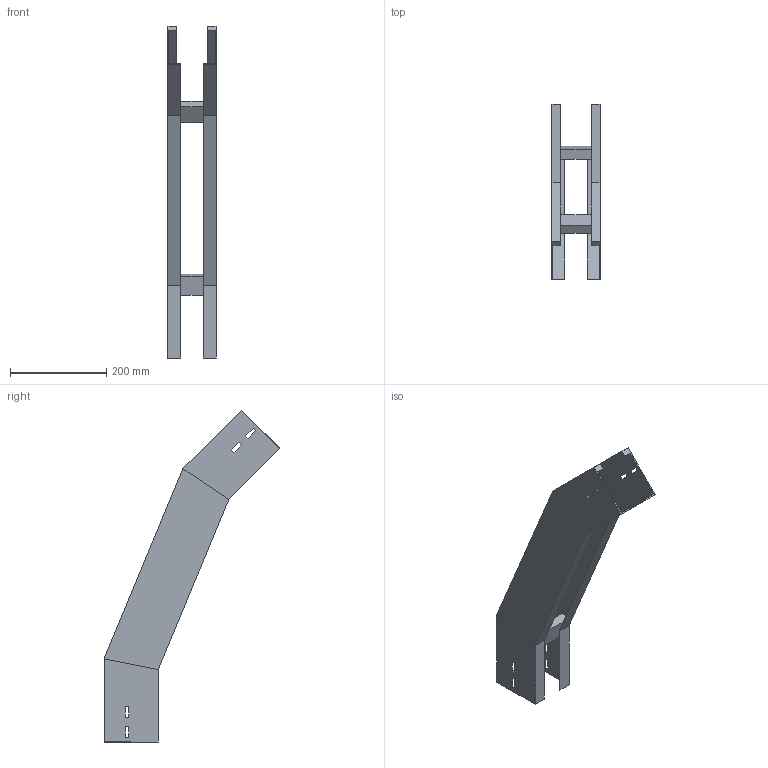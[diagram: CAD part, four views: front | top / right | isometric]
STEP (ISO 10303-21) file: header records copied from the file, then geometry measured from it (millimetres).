
FILE_DESCRIPTION (( 'STEP AP214' ), '1' );
FILE_NAME ('34B5J100.step', '2025-02-21T14:52:31', ( '' ), ( '' ), 'SwSTEP 2.0', 'SolidWorks 2023', '' );
FILE_SCHEMA (( 'AUTOMOTIVE_DESIGN' ));
Length unit declared in the file: millimetre
Products named in the file (3): LONGH.DISCESA_45°_H112.5_R500; TRAVERSINO_100; 34B5J100
Assembly tree (5 placements, depth 2):
  34B5J100
    LONGH.DISCESA_45°_H112.5_R500  x2
    TRAVERSINO_100  x3
Bounding box: 100 x 365.13 x 689.46 mm (x, y, z)
Volume: 921496.3 mm3; surface area: 490866.6 mm2
Topology: 5 solids, 5 shells, 102 faces, 244 edges, 152 vertices
Faces by surface type: plane 102
Entity records: 1480 total; most frequent: CARTESIAN_POINT 244, ORIENTED_EDGE 232, DIRECTION 228, LINE 116, VECTOR 116, EDGE_CURVE 116, VERTEX_POINT 72, AXIS2_PLACEMENT_3D 56
